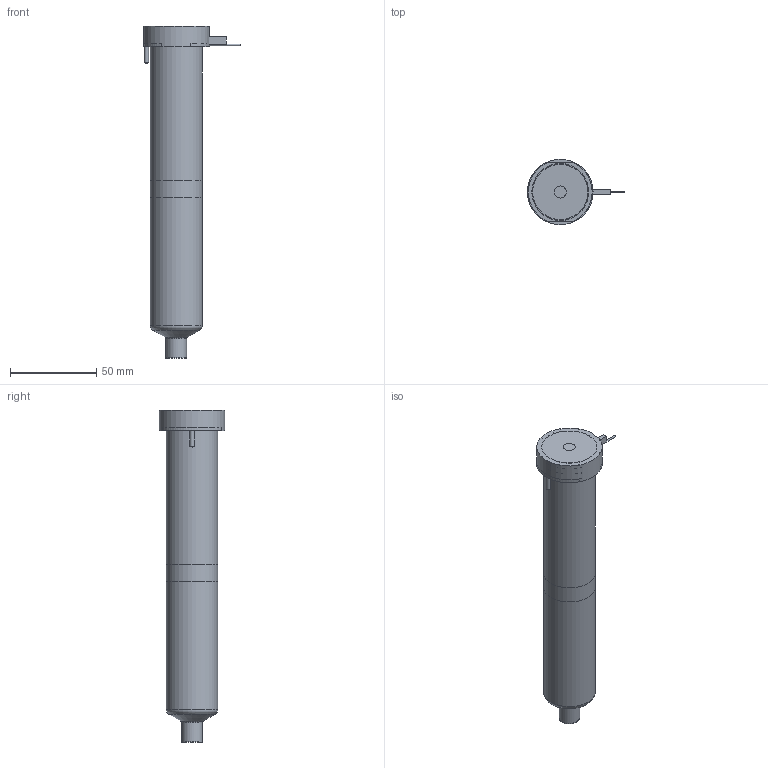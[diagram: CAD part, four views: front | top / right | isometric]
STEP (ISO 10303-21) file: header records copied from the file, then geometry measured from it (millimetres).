
FILE_DESCRIPTION(/* description */ (''),/* implementation_level */ '2;1');
FILE_NAME(/* name */ 'BXTVSN-BXIVSN-BXOVSN16175_200C_b',/* time_stamp */ '2007-01-18T10:03:24+13:00',/* author */ (''),/* organization */ (''),/* preprocessor_version */ 'ST-DEVELOPER v9',/* originating_system */ 'UGS - NX 4.0',/* authorisation */ '');
FILE_SCHEMA (('CONFIG_CONTROL_DESIGN'));
Length unit declared in the file: millimetre
Products named in the file (1): BXTVSN-BXIVSN-BXOVSN16175_200C_b
Bounding box: 56.25 x 38 x 192.48 mm (x, y, z)
Volume: 236780.9 mm3; surface area: 40680.9 mm2
Topology: 6 solids, 6 shells, 76 faces, 151 edges, 97 vertices
Faces by surface type: plane 35, cylinder 23, cone 10, torus 7, bspline 1
Full cylindrical faces by diameter (mm): 1 x3, 2.5 x3, 7 x1, 11.61 x1, 12.01 x2, 14.8 x1, 25.4 x1, 30 x2, 38 x1
Entity records: 1892 total; most frequent: CARTESIAN_POINT 374, DIRECTION 318, ORIENTED_EDGE 224, AXIS2_PLACEMENT_3D 140, EDGE_LOOP 116, EDGE_CURVE 112, VERTEX_POINT 89, ADVANCED_FACE 76
